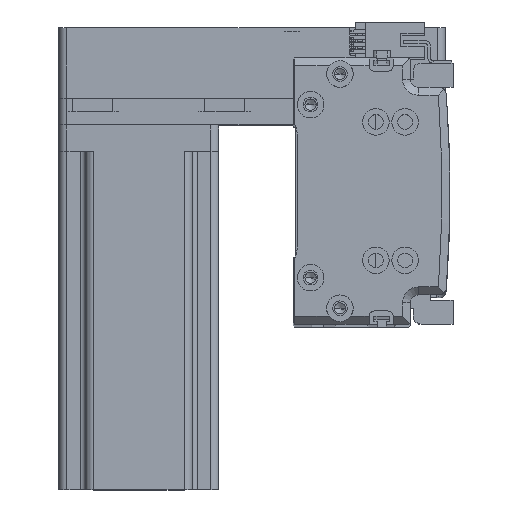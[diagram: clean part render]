
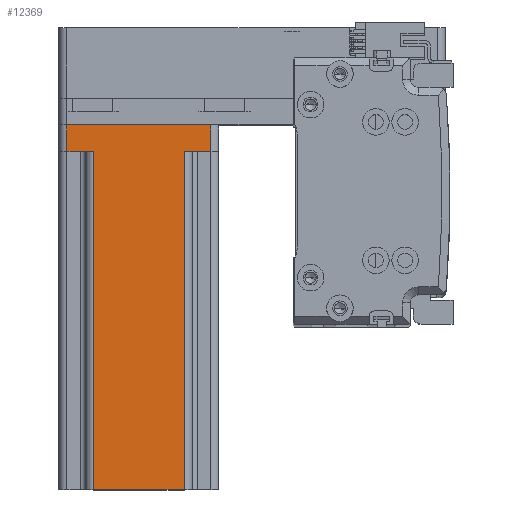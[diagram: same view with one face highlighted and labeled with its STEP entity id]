
A CAD part, top view. The second image highlights one B-rep face of the part: STEP entity #12369.
In plain terms, the highlighted planar face has unit normal (0, 0, 1) as drawn and (0, -1, 0) by its records, which use the part's own axes.
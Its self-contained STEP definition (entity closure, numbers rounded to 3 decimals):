
#698 = VERTEX_POINT ( 'NONE', #9614 ) ;
#2408 = FACE_OUTER_BOUND ( 'NONE', #24631, .T. ) ;
#2597 = ORIENTED_EDGE ( 'NONE', *, *, #23211, .T. ) ;
#3593 = CARTESIAN_POINT ( 'NONE',  ( 17., -30., 137. ) ) ;
#4144 = CARTESIAN_POINT ( 'NONE',  ( 20., -30., 10. ) ) ;
#4586 = CARTESIAN_POINT ( 'NONE',  ( 30., -30., 137. ) ) ;
#4633 = ORIENTED_EDGE ( 'NONE', *, *, #37592, .T. ) ;
#4887 = EDGE_CURVE ( 'NONE', #43131, #28704, #44553, .T. ) ;
#7204 = LINE ( 'NONE', #16058, #15969 ) ;
#8372 = DIRECTION ( 'NONE',  ( 1., 0., 0. ) ) ;
#8538 = DIRECTION ( 'NONE',  ( 1., 0., 0. ) ) ;
#9160 = CARTESIAN_POINT ( 'NONE',  ( 27., -30., 137. ) ) ;
#9614 = CARTESIAN_POINT ( 'NONE',  ( 27., -30., 0. ) ) ;
#9890 = ORIENTED_EDGE ( 'NONE', *, *, #4887, .T. ) ;
#10681 = ORIENTED_EDGE ( 'NONE', *, *, #43370, .T. ) ;
#10825 = CARTESIAN_POINT ( 'NONE',  ( -17., -30., 10. ) ) ;
#10854 = ORIENTED_EDGE ( 'NONE', *, *, #19117, .F. ) ;
#11536 = AXIS2_PLACEMENT_3D ( 'NONE', #36583, #14136, #40341 ) ;
#11665 = DIRECTION ( 'NONE',  ( -1., 0., 0. ) ) ;
#12369 = ADVANCED_FACE ( 'NONE', ( #2408 ), #36420, .F. ) ;
#12819 = ORIENTED_EDGE ( 'NONE', *, *, #24401, .F. ) ;
#14136 = DIRECTION ( 'NONE',  ( 0., 1., 0. ) ) ;
#14879 = CARTESIAN_POINT ( 'NONE',  ( -17., -30., 137. ) ) ;
#15969 = VECTOR ( 'NONE', #8538, 1000. ) ;
#16058 = CARTESIAN_POINT ( 'NONE',  ( 30., -30., 0. ) ) ;
#16064 = VERTEX_POINT ( 'NONE', #10825 ) ;
#18501 = DIRECTION ( 'NONE',  ( 0., 0., -1. ) ) ;
#19117 = EDGE_CURVE ( 'NONE', #44817, #25919, #34802, .T. ) ;
#19447 = CARTESIAN_POINT ( 'NONE',  ( -17., -30., 137. ) ) ;
#20476 = VERTEX_POINT ( 'NONE', #39859 ) ;
#20949 = VECTOR ( 'NONE', #29808, 1000. ) ;
#20984 = LINE ( 'NONE', #14879, #33908 ) ;
#21724 = CARTESIAN_POINT ( 'NONE',  ( -27., -30., 137. ) ) ;
#22134 = LINE ( 'NONE', #3593, #20949 ) ;
#22616 = VECTOR ( 'NONE', #43991, 1000. ) ;
#23211 = EDGE_CURVE ( 'NONE', #44817, #16064, #20984, .T. ) ;
#23453 = LINE ( 'NONE', #9160, #33463 ) ;
#24401 = EDGE_CURVE ( 'NONE', #43131, #16064, #42562, .T. ) ;
#24616 = VECTOR ( 'NONE', #47947, 1000. ) ;
#24631 = EDGE_LOOP ( 'NONE', ( #10854, #2597, #12819, #9890, #40704, #10681, #4633, #39586 ) ) ;
#25919 = VERTEX_POINT ( 'NONE', #42868 ) ;
#26007 = VECTOR ( 'NONE', #8372, 1000. ) ;
#27936 = VECTOR ( 'NONE', #11665, 1000. ) ;
#28490 = VERTEX_POINT ( 'NONE', #45537 ) ;
#28704 = VERTEX_POINT ( 'NONE', #41949 ) ;
#29808 = DIRECTION ( 'NONE',  ( 0., 0., 1. ) ) ;
#30466 = EDGE_CURVE ( 'NONE', #28490, #25919, #22134, .T. ) ;
#31657 = DIRECTION ( 'NONE',  ( 0., 0., 1. ) ) ;
#33309 = EDGE_CURVE ( 'NONE', #28704, #698, #7204, .T. ) ;
#33463 = VECTOR ( 'NONE', #31657, 1000. ) ;
#33908 = VECTOR ( 'NONE', #18501, 1000. ) ;
#34802 = LINE ( 'NONE', #4586, #26007 ) ;
#36420 = PLANE ( 'NONE',  #11536 ) ;
#36583 = CARTESIAN_POINT ( 'NONE',  ( 30., -30., 137. ) ) ;
#37592 = EDGE_CURVE ( 'NONE', #20476, #28490, #37896, .T. ) ;
#37896 = LINE ( 'NONE', #4144, #27936 ) ;
#39586 = ORIENTED_EDGE ( 'NONE', *, *, #30466, .T. ) ;
#39859 = CARTESIAN_POINT ( 'NONE',  ( 27., -30., 10. ) ) ;
#40241 = CARTESIAN_POINT ( 'NONE',  ( -20., -30., 10. ) ) ;
#40341 = DIRECTION ( 'NONE',  ( -1., 0., 0. ) ) ;
#40704 = ORIENTED_EDGE ( 'NONE', *, *, #33309, .T. ) ;
#41949 = CARTESIAN_POINT ( 'NONE',  ( -27., -30., 0. ) ) ;
#42562 = LINE ( 'NONE', #40241, #22616 ) ;
#42868 = CARTESIAN_POINT ( 'NONE',  ( 17., -30., 137. ) ) ;
#43131 = VERTEX_POINT ( 'NONE', #44737 ) ;
#43370 = EDGE_CURVE ( 'NONE', #698, #20476, #23453, .T. ) ;
#43991 = DIRECTION ( 'NONE',  ( 1., 0., 0. ) ) ;
#44553 = LINE ( 'NONE', #21724, #24616 ) ;
#44737 = CARTESIAN_POINT ( 'NONE',  ( -27., -30., 10. ) ) ;
#44817 = VERTEX_POINT ( 'NONE', #19447 ) ;
#45537 = CARTESIAN_POINT ( 'NONE',  ( 17., -30., 10. ) ) ;
#47947 = DIRECTION ( 'NONE',  ( 0., 0., -1. ) ) ;
